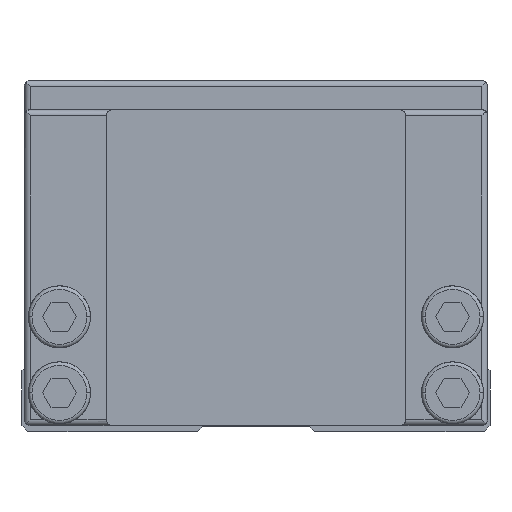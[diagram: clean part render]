
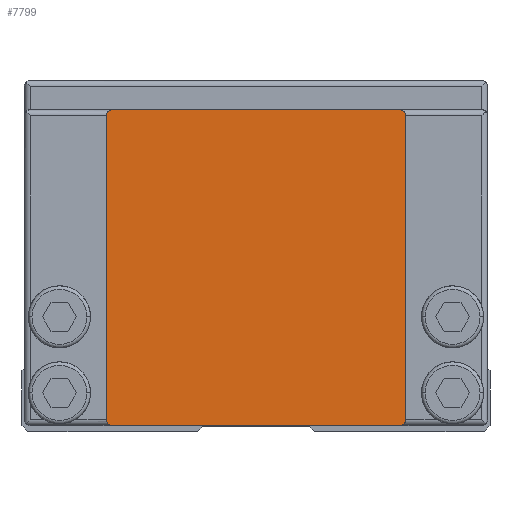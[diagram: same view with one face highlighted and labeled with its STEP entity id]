
A CAD part, front view. The second image highlights one B-rep face of the part: STEP entity #7799.
In plain terms, the highlighted planar face has unit normal (0, -1, 0).
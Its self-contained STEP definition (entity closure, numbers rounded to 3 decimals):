
#4793=VERTEX_POINT('',#13015);
#4869=EDGE_CURVE('',#6625,#9763,#13094,.T.);
#5187=VERTEX_POINT('',#13445);
#5331=EDGE_CURVE('',#5187,#4793,#13600,.T.);
#5395=EDGE_CURVE('',#8737,#5187,#13671,.T.);
#6625=VERTEX_POINT('',#15046);
#7655=VERTEX_POINT('',#16182);
#7799=ADVANCED_FACE('',(#16337),#16338,.T.);
#8737=VERTEX_POINT('',#17372);
#9355=VERTEX_POINT('',#18071);
#9763=VERTEX_POINT('',#18522);
#9955=VERTEX_POINT('',#18741);
#9963=EDGE_CURVE('',#7655,#9355,#18750,.T.);
#10565=EDGE_CURVE('',#4793,#7655,#19425,.T.);
#10665=EDGE_CURVE('',#9355,#9955,#19533,.T.);
#10891=EDGE_CURVE('',#9763,#8737,#19780,.T.);
#11003=EDGE_CURVE('',#9955,#6625,#19907,.T.);
#13015=CARTESIAN_POINT('',(-12.3,0.0,27.5));
#13094=LINE('',#22499,#22500);
#13445=CARTESIAN_POINT('',(-12.8,0.0,27.0));
#13600=CIRCLE('',#23284,0.5);
#13671=LINE('',#23380,#23381);
#15046=CARTESIAN_POINT('',(12.3,0.0,0.5));
#16182=CARTESIAN_POINT('',(12.3,0.0,27.5));
#16337=FACE_OUTER_BOUND('',#27207,.T.);
#16338=PLANE('',#27208);
#17372=CARTESIAN_POINT('',(-12.8,0.0,1.0));
#18071=CARTESIAN_POINT('',(12.8,0.0,27.0));
#18522=CARTESIAN_POINT('',(-12.3,0.0,0.5));
#18741=CARTESIAN_POINT('',(12.8,0.0,1.0));
#18750=CIRCLE('',#30640,0.5);
#19425=LINE('',#31664,#31665);
#19533=LINE('',#31853,#31854);
#19780=CIRCLE('',#32195,0.5);
#19907=CIRCLE('',#32367,0.5);
#22499=CARTESIAN_POINT('',(-12.3,0.0,0.5));
#22500=VECTOR('',#35309,1.0);
#23284=AXIS2_PLACEMENT_3D('',#35824,#35825,#35826);
#23380=CARTESIAN_POINT('',(-12.8,0.0,27.0));
#23381=VECTOR('',#35900,1.0);
#27207=EDGE_LOOP('',(#38990,#38991,#38992,#38993,#38994,#38995,#38996,#38997));
#27208=AXIS2_PLACEMENT_3D('',#38998,#38999,#39000);
#30640=AXIS2_PLACEMENT_3D('',#41848,#41849,#41850);
#31664=CARTESIAN_POINT('',(12.3,0.0,27.5));
#31665=VECTOR('',#42744,1.0);
#31853=CARTESIAN_POINT('',(12.8,0.0,1.0));
#31854=VECTOR('',#42844,1.0);
#32195=AXIS2_PLACEMENT_3D('',#43065,#43066,#43067);
#32367=AXIS2_PLACEMENT_3D('',#43220,#43221,#43222);
#35309=DIRECTION('',(-1.0,0.0,-0.0));
#35824=CARTESIAN_POINT('',(-12.3,0.0,27.0));
#35825=DIRECTION('',(0.0,1.0,-0.0));
#35826=DIRECTION('',(0.,0.0,1.0));
#35900=DIRECTION('',(0.0,0.0,1.0));
#38990=ORIENTED_EDGE('',*,*,#5395,.F.);
#38991=ORIENTED_EDGE('',*,*,#10891,.F.);
#38992=ORIENTED_EDGE('',*,*,#4869,.F.);
#38993=ORIENTED_EDGE('',*,*,#11003,.F.);
#38994=ORIENTED_EDGE('',*,*,#10665,.F.);
#38995=ORIENTED_EDGE('',*,*,#9963,.F.);
#38996=ORIENTED_EDGE('',*,*,#10565,.F.);
#38997=ORIENTED_EDGE('',*,*,#5331,.F.);
#38998=CARTESIAN_POINT('',(0.,0.0,14.0));
#38999=DIRECTION('',(0.0,-1.0,0.0));
#39000=DIRECTION('',(1.0,0.0,0.0));
#41848=CARTESIAN_POINT('',(12.3,0.0,27.0));
#41849=DIRECTION('',(-0.0,1.0,0.0));
#41850=DIRECTION('',(1.0,0.0,0.));
#42744=DIRECTION('',(1.0,0.0,0.0));
#42844=DIRECTION('',(-0.0,0.0,-1.0));
#43065=CARTESIAN_POINT('',(-12.3,0.0,1.));
#43066=DIRECTION('',(0.0,1.0,-0.0));
#43067=DIRECTION('',(-1.0,0.0,0.));
#43220=CARTESIAN_POINT('',(12.3,0.0,1.));
#43221=DIRECTION('',(-0.0,1.0,0.0));
#43222=DIRECTION('',(0.0,0.0,-1.0));
